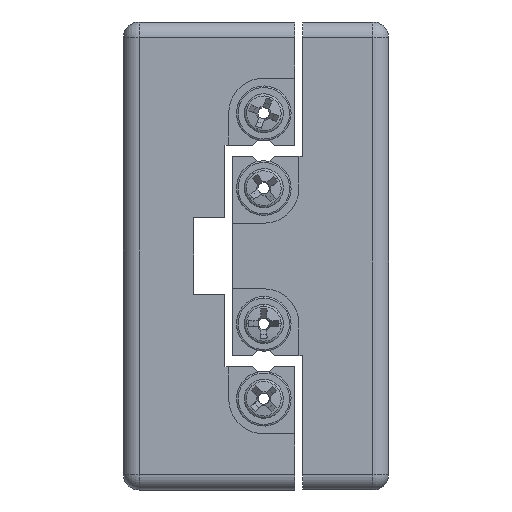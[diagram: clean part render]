
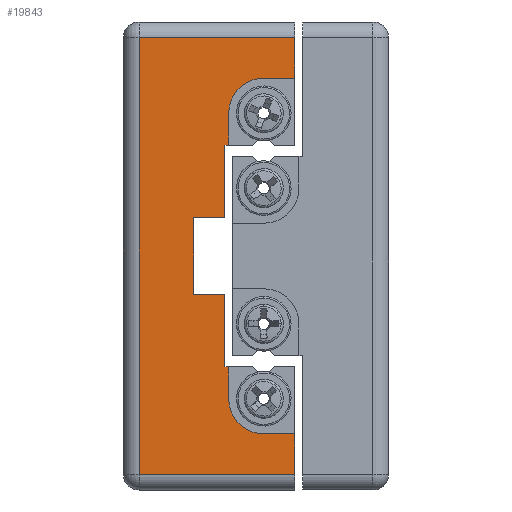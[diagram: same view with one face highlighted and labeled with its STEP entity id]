
A CAD part, left-side view. The second image highlights one B-rep face of the part: STEP entity #19843.
In plain terms, the highlighted planar face has unit normal (-1, 0, 0).
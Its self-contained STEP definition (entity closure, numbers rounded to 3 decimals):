
#175 = CIRCLE ( 'NONE', #21158, 2.25 ) ;
#227 = ORIENTED_EDGE ( 'NONE', *, *, #15026, .T. ) ;
#336 = DIRECTION ( 'NONE',  ( 0., 0., 1. ) ) ;
#789 = EDGE_CURVE ( 'NONE', #25711, #16665, #13000, .T. ) ;
#979 = EDGE_CURVE ( 'NONE', #21377, #4828, #18093, .T. ) ;
#1430 = CARTESIAN_POINT ( 'NONE',  ( -44.256, -14.017, -7.102 ) ) ;
#2569 = CARTESIAN_POINT ( 'NONE',  ( -44.256, -14.017, -2.452 ) ) ;
#2762 = VERTEX_POINT ( 'NONE', #23425 ) ;
#2948 = CARTESIAN_POINT ( 'NONE',  ( -44.256, -14.267, 9.148 ) ) ;
#3077 = LINE ( 'NONE', #16391, #3440 ) ;
#3440 = VECTOR ( 'NONE', #12803, 1000. ) ;
#3448 = DIRECTION ( 'NONE',  ( 0., 0., -1. ) ) ;
#3467 = EDGE_CURVE ( 'NONE', #16779, #21192, #18014, .T. ) ;
#3677 = LINE ( 'NONE', #16303, #24547 ) ;
#3701 = ORIENTED_EDGE ( 'NONE', *, *, #24591, .T. ) ;
#3719 = CARTESIAN_POINT ( 'NONE',  ( -44.256, -14.267, -9.152 ) ) ;
#4273 = EDGE_CURVE ( 'NONE', #15360, #25952, #3077, .T. ) ;
#4431 = ORIENTED_EDGE ( 'NONE', *, *, #19125, .F. ) ;
#4517 = ORIENTED_EDGE ( 'NONE', *, *, #17690, .T. ) ;
#4548 = DIRECTION ( 'NONE',  ( 0., -1., 0. ) ) ;
#4759 = CARTESIAN_POINT ( 'NONE',  ( -44.256, -7.517, -15.002 ) ) ;
#4828 = VERTEX_POINT ( 'NONE', #6477 ) ;
#4831 = CARTESIAN_POINT ( 'NONE',  ( -44.256, -16.517, 9.148 ) ) ;
#4862 = EDGE_CURVE ( 'NONE', #5201, #21219, #18949, .T. ) ;
#4866 = CARTESIAN_POINT ( 'NONE',  ( -44.256, -7.517, 13.998 ) ) ;
#5046 = EDGE_CURVE ( 'NONE', #10055, #16665, #24256, .T. ) ;
#5115 = ORIENTED_EDGE ( 'NONE', *, *, #979, .F. ) ;
#5163 = CARTESIAN_POINT ( 'NONE',  ( -44.256, -14.267, -9.152 ) ) ;
#5201 = VERTEX_POINT ( 'NONE', #23881 ) ;
#5450 = DIRECTION ( 'NONE',  ( 0., 0., 1. ) ) ;
#5616 = VERTEX_POINT ( 'NONE', #2948 ) ;
#6095 = LINE ( 'NONE', #4866, #11412 ) ;
#6318 = EDGE_LOOP ( 'NONE', ( #9093, #4517, #11428, #6560, #8661, #11895, #19257, #11791, #26012, #17766, #18526, #4431, #5115, #3701, #9072, #227, #8690, #10035 ) ) ;
#6477 = CARTESIAN_POINT ( 'NONE',  ( -44.256, -14.017, 7.098 ) ) ;
#6560 = ORIENTED_EDGE ( 'NONE', *, *, #3467, .T. ) ;
#6758 = DIRECTION ( 'NONE',  ( 0., 0., -1. ) ) ;
#6834 = DIRECTION ( 'NONE',  ( 0., 0., -1. ) ) ;
#6882 = DIRECTION ( 'NONE',  ( 0., 1., 0. ) ) ;
#6911 = CARTESIAN_POINT ( 'NONE',  ( -44.256, -12.017, 2.448 ) ) ;
#7023 = CARTESIAN_POINT ( 'NONE',  ( -44.256, -16.517, -11.402 ) ) ;
#7648 = LINE ( 'NONE', #10302, #10423 ) ;
#7701 = VECTOR ( 'NONE', #12510, 1000. ) ;
#8518 = DIRECTION ( 'NONE',  ( 1., 0., 0. ) ) ;
#8661 = ORIENTED_EDGE ( 'NONE', *, *, #20810, .T. ) ;
#8667 = LINE ( 'NONE', #10228, #13281 ) ;
#8690 = ORIENTED_EDGE ( 'NONE', *, *, #4273, .T. ) ;
#9072 = ORIENTED_EDGE ( 'NONE', *, *, #11761, .T. ) ;
#9093 = ORIENTED_EDGE ( 'NONE', *, *, #19341, .T. ) ;
#9172 = EDGE_CURVE ( 'NONE', #14986, #25711, #23937, .T. ) ;
#9813 = CARTESIAN_POINT ( 'NONE',  ( -44.256, -14.017, 2.448 ) ) ;
#9840 = CIRCLE ( 'NONE', #24335, 2.25 ) ;
#9846 = DIRECTION ( 'NONE',  ( 0., -1., 0. ) ) ;
#9853 = VECTOR ( 'NONE', #11771, 1000. ) ;
#10035 = ORIENTED_EDGE ( 'NONE', *, *, #18238, .T. ) ;
#10055 = VERTEX_POINT ( 'NONE', #5163 ) ;
#10228 = CARTESIAN_POINT ( 'NONE',  ( -44.256, -14.267, 9.148 ) ) ;
#10302 = CARTESIAN_POINT ( 'NONE',  ( -44.256, -18.517, -15.002 ) ) ;
#10397 = DIRECTION ( 'NONE',  ( 0., -1., 0. ) ) ;
#10423 = VECTOR ( 'NONE', #12352, 1000. ) ;
#10544 = CARTESIAN_POINT ( 'NONE',  ( -44.256, -8.517, -15.002 ) ) ;
#10705 = EDGE_CURVE ( 'NONE', #11569, #16779, #7648, .T. ) ;
#10924 = DIRECTION ( 'NONE',  ( 0., 0., -1. ) ) ;
#11412 = VECTOR ( 'NONE', #6882, 1000. ) ;
#11428 = ORIENTED_EDGE ( 'NONE', *, *, #10705, .T. ) ;
#11569 = VERTEX_POINT ( 'NONE', #15992 ) ;
#11761 = EDGE_CURVE ( 'NONE', #5616, #23408, #175, .T. ) ;
#11771 = DIRECTION ( 'NONE',  ( 0., 0., -1. ) ) ;
#11791 = ORIENTED_EDGE ( 'NONE', *, *, #9172, .F. ) ;
#11831 = VECTOR ( 'NONE', #4548, 1000. ) ;
#11895 = ORIENTED_EDGE ( 'NONE', *, *, #5046, .T. ) ;
#12352 = DIRECTION ( 'NONE',  ( 0., 0., 1. ) ) ;
#12510 = DIRECTION ( 'NONE',  ( 0., 0., -1. ) ) ;
#12551 = VECTOR ( 'NONE', #10924, 1000. ) ;
#12803 = DIRECTION ( 'NONE',  ( 0., 0., 1. ) ) ;
#12921 = LINE ( 'NONE', #10544, #7701 ) ;
#13000 = LINE ( 'NONE', #21001, #13029 ) ;
#13029 = VECTOR ( 'NONE', #21209, 1000. ) ;
#13281 = VECTOR ( 'NONE', #336, 1000. ) ;
#13363 = VECTOR ( 'NONE', #9846, 1000. ) ;
#13574 = CARTESIAN_POINT ( 'NONE',  ( -44.256, -14.267, 7.098 ) ) ;
#13728 = CARTESIAN_POINT ( 'NONE',  ( -44.256, -18.517, 11.398 ) ) ;
#14019 = CARTESIAN_POINT ( 'NONE',  ( -44.256, -18.517, 13.998 ) ) ;
#14478 = PLANE ( 'NONE',  #16976 ) ;
#14543 = DIRECTION ( 'NONE',  ( 0., 1., 0. ) ) ;
#14584 = VERTEX_POINT ( 'NONE', #21576 ) ;
#14986 = VERTEX_POINT ( 'NONE', #24057 ) ;
#15026 = EDGE_CURVE ( 'NONE', #23408, #15360, #18692, .T. ) ;
#15168 = CARTESIAN_POINT ( 'NONE',  ( -44.256, -14.017, -7.102 ) ) ;
#15180 = CARTESIAN_POINT ( 'NONE',  ( -44.256, -12.017, 2.448 ) ) ;
#15360 = VERTEX_POINT ( 'NONE', #13728 ) ;
#15465 = EDGE_CURVE ( 'NONE', #14584, #14986, #17136, .T. ) ;
#15992 = CARTESIAN_POINT ( 'NONE',  ( -44.256, -18.517, -14.002 ) ) ;
#16303 = CARTESIAN_POINT ( 'NONE',  ( -44.256, -7.517, -14.002 ) ) ;
#16391 = CARTESIAN_POINT ( 'NONE',  ( -44.256, -18.517, -15.002 ) ) ;
#16481 = VECTOR ( 'NONE', #19099, 1000. ) ;
#16665 = VERTEX_POINT ( 'NONE', #20470 ) ;
#16779 = VERTEX_POINT ( 'NONE', #18648 ) ;
#16837 = CARTESIAN_POINT ( 'NONE',  ( -44.256, -16.517, -11.402 ) ) ;
#16976 = AXIS2_PLACEMENT_3D ( 'NONE', #4759, #18682, #6758 ) ;
#17136 = LINE ( 'NONE', #2569, #11831 ) ;
#17690 = EDGE_CURVE ( 'NONE', #23771, #11569, #3677, .T. ) ;
#17766 = ORIENTED_EDGE ( 'NONE', *, *, #20948, .F. ) ;
#17893 = LINE ( 'NONE', #25279, #12551 ) ;
#17984 = CARTESIAN_POINT ( 'NONE',  ( -44.256, -16.517, 11.398 ) ) ;
#18014 = LINE ( 'NONE', #16837, #16481 ) ;
#18093 = LINE ( 'NONE', #24736, #18330 ) ;
#18238 = EDGE_CURVE ( 'NONE', #25952, #2762, #6095, .T. ) ;
#18330 = VECTOR ( 'NONE', #24832, 1000. ) ;
#18526 = ORIENTED_EDGE ( 'NONE', *, *, #4862, .F. ) ;
#18609 = VECTOR ( 'NONE', #3448, 1000. ) ;
#18648 = CARTESIAN_POINT ( 'NONE',  ( -44.256, -18.517, -11.402 ) ) ;
#18682 = DIRECTION ( 'NONE',  ( 1., 0., 0. ) ) ;
#18692 = LINE ( 'NONE', #17984, #13363 ) ;
#18754 = DIRECTION ( 'NONE',  ( 1., 0., 0. ) ) ;
#18949 = LINE ( 'NONE', #6911, #20270 ) ;
#19099 = DIRECTION ( 'NONE',  ( 0., 1., 0. ) ) ;
#19125 = EDGE_CURVE ( 'NONE', #4828, #5201, #20464, .T. ) ;
#19257 = ORIENTED_EDGE ( 'NONE', *, *, #789, .F. ) ;
#19341 = EDGE_CURVE ( 'NONE', #2762, #23771, #12921, .T. ) ;
#19843 = ADVANCED_FACE ( 'NONE', ( #20169 ), #14478, .F. ) ;
#20169 = FACE_OUTER_BOUND ( 'NONE', #6318, .T. ) ;
#20270 = VECTOR ( 'NONE', #14543, 1000. ) ;
#20464 = LINE ( 'NONE', #9813, #9853 ) ;
#20470 = CARTESIAN_POINT ( 'NONE',  ( -44.256, -14.267, -7.102 ) ) ;
#20492 = CARTESIAN_POINT ( 'NONE',  ( -44.256, -16.517, -9.152 ) ) ;
#20810 = EDGE_CURVE ( 'NONE', #21192, #10055, #9840, .T. ) ;
#20948 = EDGE_CURVE ( 'NONE', #21219, #14584, #17893, .T. ) ;
#21001 = CARTESIAN_POINT ( 'NONE',  ( -44.256, -18.517, -7.102 ) ) ;
#21158 = AXIS2_PLACEMENT_3D ( 'NONE', #4831, #18754, #6834 ) ;
#21192 = VERTEX_POINT ( 'NONE', #7023 ) ;
#21209 = DIRECTION ( 'NONE',  ( 0., -1., 0. ) ) ;
#21219 = VERTEX_POINT ( 'NONE', #15180 ) ;
#21377 = VERTEX_POINT ( 'NONE', #13574 ) ;
#21576 = CARTESIAN_POINT ( 'NONE',  ( -44.256, -12.017, -2.452 ) ) ;
#22606 = DIRECTION ( 'NONE',  ( 0., 0., 1. ) ) ;
#23408 = VERTEX_POINT ( 'NONE', #24730 ) ;
#23425 = CARTESIAN_POINT ( 'NONE',  ( -44.256, -8.517, 13.998 ) ) ;
#23771 = VERTEX_POINT ( 'NONE', #23962 ) ;
#23881 = CARTESIAN_POINT ( 'NONE',  ( -44.256, -14.017, 2.448 ) ) ;
#23937 = LINE ( 'NONE', #1430, #18609 ) ;
#23962 = CARTESIAN_POINT ( 'NONE',  ( -44.256, -8.517, -14.002 ) ) ;
#23985 = VECTOR ( 'NONE', #5450, 1000. ) ;
#24057 = CARTESIAN_POINT ( 'NONE',  ( -44.256, -14.017, -2.452 ) ) ;
#24256 = LINE ( 'NONE', #3719, #23985 ) ;
#24335 = AXIS2_PLACEMENT_3D ( 'NONE', #20492, #8518, #22606 ) ;
#24547 = VECTOR ( 'NONE', #10397, 1000. ) ;
#24591 = EDGE_CURVE ( 'NONE', #21377, #5616, #8667, .T. ) ;
#24730 = CARTESIAN_POINT ( 'NONE',  ( -44.256, -16.517, 11.398 ) ) ;
#24736 = CARTESIAN_POINT ( 'NONE',  ( -44.256, -14.017, 7.098 ) ) ;
#24832 = DIRECTION ( 'NONE',  ( 0., 1., 0. ) ) ;
#25279 = CARTESIAN_POINT ( 'NONE',  ( -44.256, -12.017, -2.452 ) ) ;
#25711 = VERTEX_POINT ( 'NONE', #15168 ) ;
#25952 = VERTEX_POINT ( 'NONE', #14019 ) ;
#26012 = ORIENTED_EDGE ( 'NONE', *, *, #15465, .F. ) ;
